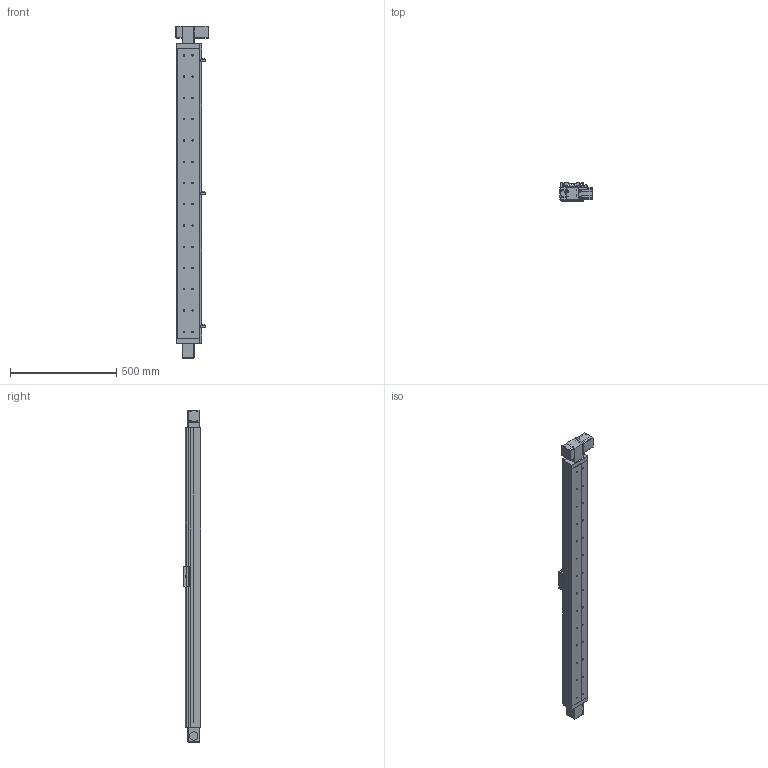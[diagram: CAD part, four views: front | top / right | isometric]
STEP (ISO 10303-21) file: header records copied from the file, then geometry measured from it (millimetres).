
FILE_DESCRIPTION((''),'2;1');
FILE_NAME('E:\uia actuator\UIA actuator 3d- 2015\Belt drive actuator\UIA110BR12(15)DC\UIA110BR12(15)DC-STEP FILE\UIA110BR12(15) stp file 13May16\UIA110BR12(15)DC-1250-M23-P13-C10-S.stp','2016-05-16T09:30:11',('h029'),(''),'Autodesk Inventor 11','Autodesk Inventor 11','');
FILE_SCHEMA(('AUTOMOTIVE_DESIGN { 1 0 10303 214 1 1 1 1 }'));
Length unit declared in the file: millimetre
Products named in the file (11): UIA110BR12(15)DC-1250; UIA110BR12(15)DC-1250-body; UIA110BR12(15)DC-1250-Sensor rail; UIA110B-Carriage; UIA110B- Sensor Flag; UIA110B-Cover; SOH-32C; SOH-32C-3; SOH-32C-1; SOH-32C-2; Motor mount
Assembly tree (10 placements, depth 3):
  UIA110BR12(15)DC-1250
    UIA110BR12(15)DC-1250-body
    UIA110BR12(15)DC-1250-Sensor rail
    UIA110B-Carriage
    UIA110B- Sensor Flag
    UIA110B-Cover
    SOH-32C
      SOH-32C-3
      SOH-32C-1
      SOH-32C-2
    Motor mount
Bounding box: 152 x 84.2 x 1561 mm (x, y, z)
Volume: 4571935.4 mm3; surface area: 1348457.5 mm2
Topology: 9 solids, 13 shells, 788 faces, 2218 edges, 1416 vertices
Faces by surface type: plane 487, cylinder 211, cone 42, bspline 40, sphere 8
Full cylindrical faces by diameter (mm): 2.459 x4, 3 x2, 3.242 x8, 3.5 x4, 4 x10, 4.5 x4, 4.917 x8, 5 x2, 6.35 x1, 6.5 x28, 7.5 x4, 10 x3, 11 x28, 12 x1, 20 x2, 32 x3, 37 x1, 38.1 x1, 39 x2, 43.5 x1, 46 x2
Entity records: 26698 total; most frequent: CARTESIAN_POINT 7029, DIRECTION 4023, ORIENTED_EDGE 3822, EDGE_CURVE 1911, AXIS2_PLACEMENT_3D 1396, VERTEX_POINT 1312, VECTOR 1231, LINE 1231
